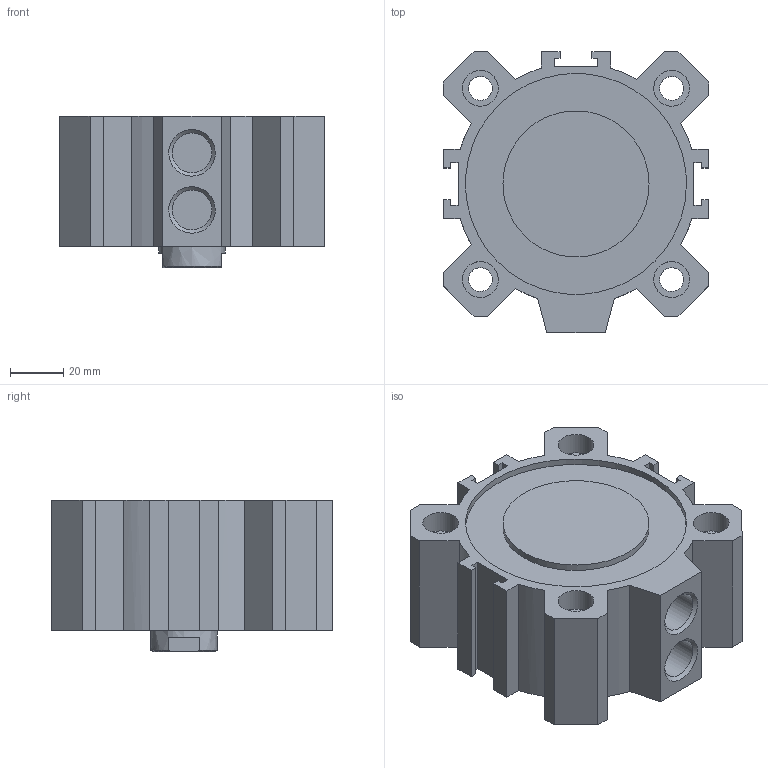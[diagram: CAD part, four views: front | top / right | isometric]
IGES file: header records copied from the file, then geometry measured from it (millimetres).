
Global section: file name: 1512_80_0005; native system: Autodesk Inventor 2014; preprocessor: unknown; author: A. Manieri; date: 20160907.144007; units: millimetre
Bounding box: 100 x 106 x 57 mm (x, y, z)
Volume: 358447.3 mm3; surface area: 85062.8 mm2
Topology: 2 solids, 2 shells, 118 faces, 302 edges, 206 vertices
Faces by surface type: bspline 118
